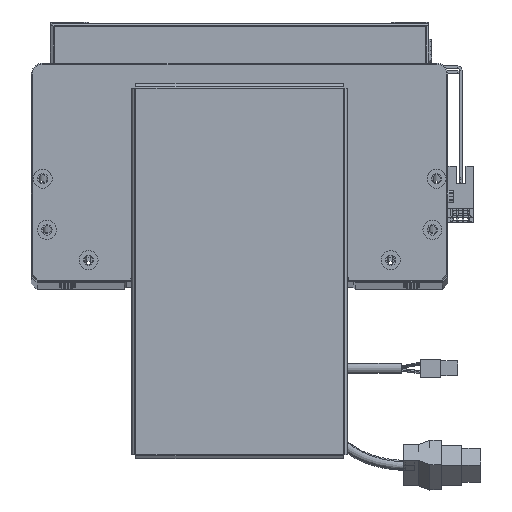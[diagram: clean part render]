
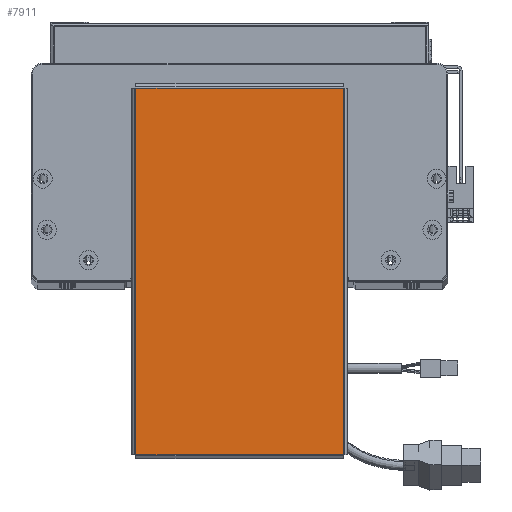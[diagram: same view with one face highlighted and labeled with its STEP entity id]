
A CAD part, top view. The second image highlights one B-rep face of the part: STEP entity #7911.
In plain terms, the highlighted planar face has unit normal (0, 0, 1).
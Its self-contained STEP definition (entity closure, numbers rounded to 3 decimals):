
#3206 = ORIENTED_EDGE ( 'NONE', *, *, #64279, .T. ) ;
#6811 = LINE ( 'NONE', #62537, #43618 ) ;
#7911 = ADVANCED_FACE ( 'NONE', ( #17977 ), #44340, .T. ) ;
#8327 = VERTEX_POINT ( 'NONE', #53185 ) ;
#11902 = VECTOR ( 'NONE', #12707, 1000. ) ;
#12707 = DIRECTION ( 'NONE',  ( 1., 0., 0. ) ) ;
#16843 = DIRECTION ( 'NONE',  ( 0., 0., 1. ) ) ;
#17977 = FACE_OUTER_BOUND ( 'NONE', #47946, .T. ) ;
#21727 = CARTESIAN_POINT ( 'NONE',  ( -96.793, -54.763, 0. ) ) ;
#21851 = CARTESIAN_POINT ( 'NONE',  ( 0., 0., 0. ) ) ;
#22127 = LINE ( 'NONE', #21727, #11902 ) ;
#23792 = ORIENTED_EDGE ( 'NONE', *, *, #45776, .T. ) ;
#24467 = CARTESIAN_POINT ( 'NONE',  ( 96.793, 54.763, 0. ) ) ;
#31249 = VERTEX_POINT ( 'NONE', #60244 ) ;
#31452 = EDGE_CURVE ( 'NONE', #32791, #8327, #6811, .T. ) ;
#32000 = EDGE_CURVE ( 'NONE', #38817, #32791, #22127, .T. ) ;
#32791 = VERTEX_POINT ( 'NONE', #67587 ) ;
#35308 = VECTOR ( 'NONE', #66611, 1000. ) ;
#38817 = VERTEX_POINT ( 'NONE', #55501 ) ;
#42203 = LINE ( 'NONE', #50355, #35308 ) ;
#43618 = VECTOR ( 'NONE', #46531, 1000. ) ;
#43849 = DIRECTION ( 'NONE',  ( 1., 0., 0. ) ) ;
#44340 = PLANE ( 'NONE',  #45225 ) ;
#45225 = AXIS2_PLACEMENT_3D ( 'NONE', #21851, #16843, #43849 ) ;
#45776 = EDGE_CURVE ( 'NONE', #31249, #38817, #42203, .T. ) ;
#46531 = DIRECTION ( 'NONE',  ( 0., 1., 0. ) ) ;
#47946 = EDGE_LOOP ( 'NONE', ( #48812, #61713, #3206, #23792 ) ) ;
#48812 = ORIENTED_EDGE ( 'NONE', *, *, #32000, .T. ) ;
#50355 = CARTESIAN_POINT ( 'NONE',  ( -96.763, 54.793, 0. ) ) ;
#51300 = DIRECTION ( 'NONE',  ( -1., 0., 0. ) ) ;
#52196 = VECTOR ( 'NONE', #51300, 1000. ) ;
#53185 = CARTESIAN_POINT ( 'NONE',  ( 96.763, 54.763, 0. ) ) ;
#55501 = CARTESIAN_POINT ( 'NONE',  ( -96.763, -54.763, 0. ) ) ;
#59795 = LINE ( 'NONE', #24467, #52196 ) ;
#60244 = CARTESIAN_POINT ( 'NONE',  ( -96.763, 54.763, 0. ) ) ;
#61713 = ORIENTED_EDGE ( 'NONE', *, *, #31452, .T. ) ;
#62537 = CARTESIAN_POINT ( 'NONE',  ( 96.763, -54.793, 0. ) ) ;
#64279 = EDGE_CURVE ( 'NONE', #8327, #31249, #59795, .T. ) ;
#66611 = DIRECTION ( 'NONE',  ( 0., -1., 0. ) ) ;
#67587 = CARTESIAN_POINT ( 'NONE',  ( 96.763, -54.763, 0. ) ) ;
